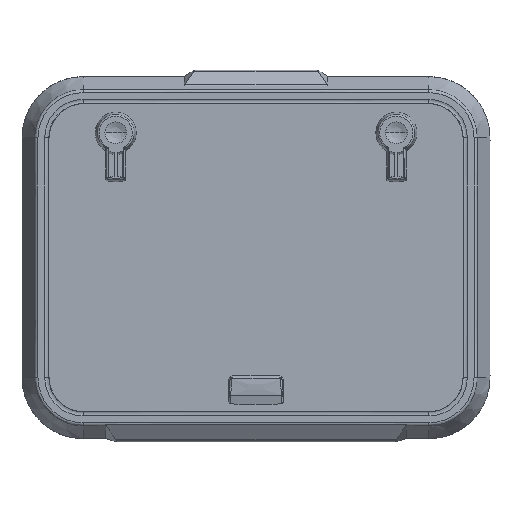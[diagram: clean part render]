
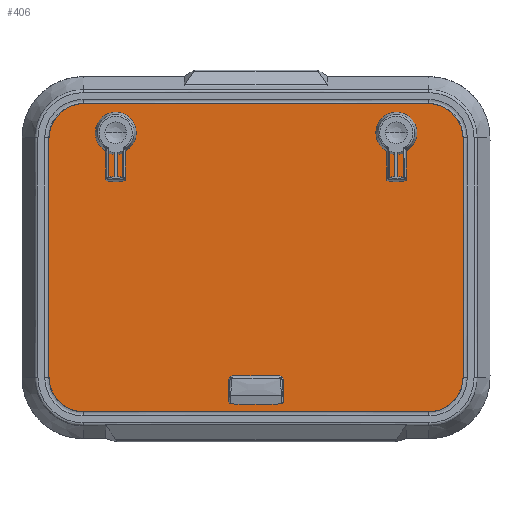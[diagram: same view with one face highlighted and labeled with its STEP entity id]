
A CAD part, front view. The second image highlights one B-rep face of the part: STEP entity #406.
In plain terms, the highlighted planar face has unit normal (0, -1, 0).
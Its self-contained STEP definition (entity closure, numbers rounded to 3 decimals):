
#1=CARTESIAN_POINT('',(81.9,0.,-35.7));
#2=DIRECTION('',(0.,-1.,0.));
#3=DIRECTION('',(1.,0.,0.));
#4=AXIS2_PLACEMENT_3D('',#1,#2,#3);
#6=CARTESIAN_POINT('',(81.9,0.,-35.7));
#7=DIRECTION('',(0.,-1.,0.));
#8=DIRECTION('',(-1.,0.,0.));
#9=AXIS2_PLACEMENT_3D('',#6,#7,#8);
#11=CARTESIAN_POINT('',(97.055,0.,-44.45));
#12=DIRECTION('',(0.,-1.,0.));
#13=DIRECTION('',(1.,0.,0.));
#14=AXIS2_PLACEMENT_3D('',#11,#12,#13);
#16=CARTESIAN_POINT('',(97.055,0.,-44.45));
#17=DIRECTION('',(0.,-1.,0.));
#18=DIRECTION('',(-1.,0.,0.));
#19=AXIS2_PLACEMENT_3D('',#16,#17,#18);
#21=CARTESIAN_POINT('',(426.1,0.,-35.7));
#22=DIRECTION('',(0.,-1.,0.));
#23=DIRECTION('',(1.,0.,0.));
#24=AXIS2_PLACEMENT_3D('',#21,#22,#23);
#26=CARTESIAN_POINT('',(426.1,0.,-35.7));
#27=DIRECTION('',(0.,-1.,0.));
#28=DIRECTION('',(-1.,0.,0.));
#29=AXIS2_PLACEMENT_3D('',#26,#27,#28);
#31=CARTESIAN_POINT('',(410.945,0.,-44.45));
#32=DIRECTION('',(0.,-1.,0.));
#33=DIRECTION('',(1.,0.,0.));
#34=AXIS2_PLACEMENT_3D('',#31,#32,#33);
#36=CARTESIAN_POINT('',(410.945,0.,-44.45));
#37=DIRECTION('',(0.,-1.,0.));
#38=DIRECTION('',(-1.,0.,0.));
#39=AXIS2_PLACEMENT_3D('',#36,#37,#38);
#41=DIRECTION('',(1.,0.,0.));
#42=VECTOR('',#41,422.);
#43=CARTESIAN_POINT('',(43.,0.,0.));
#44=LINE('',#43,#42);
#45=CARTESIAN_POINT('',(465.,0.,-43.));
#46=DIRECTION('',(0.,1.,0.));
#47=DIRECTION('',(0.,0.,1.));
#48=AXIS2_PLACEMENT_3D('',#45,#46,#47);
#50=DIRECTION('',(0.,0.,-1.));
#51=VECTOR('',#50,292.);
#52=CARTESIAN_POINT('',(508.,0.,-43.));
#53=LINE('',#52,#51);
#54=CARTESIAN_POINT('',(465.,0.,-335.));
#55=DIRECTION('',(0.,1.,0.));
#56=DIRECTION('',(1.,0.,0.));
#57=AXIS2_PLACEMENT_3D('',#54,#55,#56);
#59=DIRECTION('',(-1.,0.,0.));
#60=VECTOR('',#59,422.);
#61=CARTESIAN_POINT('',(465.,0.,-378.));
#62=LINE('',#61,#60);
#63=CARTESIAN_POINT('',(43.,0.,-335.));
#64=DIRECTION('',(0.,1.,0.));
#65=DIRECTION('',(0.,0.,-1.));
#66=AXIS2_PLACEMENT_3D('',#63,#64,#65);
#68=DIRECTION('',(0.,0.,1.));
#69=VECTOR('',#68,292.);
#70=CARTESIAN_POINT('',(0.,0.,-335.));
#71=LINE('',#70,#69);
#72=CARTESIAN_POINT('',(43.,0.,-43.));
#73=DIRECTION('',(0.,1.,0.));
#74=DIRECTION('',(-1.,0.,0.));
#75=AXIS2_PLACEMENT_3D('',#72,#73,#74);
#77=CARTESIAN_POINT('',(275.5,0.,-347.));
#78=DIRECTION('',(0.,-1.,0.));
#79=DIRECTION('',(0.,0.,-1.));
#80=AXIS2_PLACEMENT_3D('',#77,#78,#79);
#82=DIRECTION('',(-1.,0.,0.));
#83=VECTOR('',#82,43.);
#84=CARTESIAN_POINT('',(275.5,0.,-341.5));
#85=LINE('',#84,#83);
#86=CARTESIAN_POINT('',(232.5,0.,-347.));
#87=DIRECTION('',(0.,-1.,0.));
#88=DIRECTION('',(0.,0.,1.));
#89=AXIS2_PLACEMENT_3D('',#86,#87,#88);
#91=DIRECTION('',(1.,0.,0.));
#92=VECTOR('',#91,43.);
#93=CARTESIAN_POINT('',(232.5,0.,-352.5));
#94=LINE('',#93,#92);
#269=CARTESIAN_POINT('',(43.,0.,0.));
#270=CARTESIAN_POINT('',(465.,0.,0.));
#271=VERTEX_POINT('',#269);
#272=VERTEX_POINT('',#270);
#273=CARTESIAN_POINT('',(508.,0.,-43.));
#274=VERTEX_POINT('',#273);
#275=CARTESIAN_POINT('',(508.,0.,-335.));
#276=VERTEX_POINT('',#275);
#277=CARTESIAN_POINT('',(465.,0.,-378.));
#278=VERTEX_POINT('',#277);
#279=CARTESIAN_POINT('',(43.,0.,-378.));
#280=VERTEX_POINT('',#279);
#281=CARTESIAN_POINT('',(0.,0.,-335.));
#282=VERTEX_POINT('',#281);
#283=CARTESIAN_POINT('',(0.,0.,-43.));
#284=VERTEX_POINT('',#283);
#285=CARTESIAN_POINT('',(275.5,0.,-352.5));
#286=CARTESIAN_POINT('',(275.5,0.,-341.5));
#287=VERTEX_POINT('',#285);
#288=VERTEX_POINT('',#286);
#289=CARTESIAN_POINT('',(232.5,0.,-341.5));
#290=VERTEX_POINT('',#289);
#291=CARTESIAN_POINT('',(232.5,0.,-352.5));
#292=VERTEX_POINT('',#291);
#317=CARTESIAN_POINT('',(89.4,0.,-35.7));
#318=CARTESIAN_POINT('',(74.4,0.,-35.7));
#319=VERTEX_POINT('',#317);
#320=VERTEX_POINT('',#318);
#321=CARTESIAN_POINT('',(100.393,0.,-44.45));
#322=CARTESIAN_POINT('',(93.718,0.,-44.45));
#323=VERTEX_POINT('',#321);
#324=VERTEX_POINT('',#322);
#333=CARTESIAN_POINT('',(433.6,0.,-35.7));
#334=CARTESIAN_POINT('',(418.6,0.,-35.7));
#335=VERTEX_POINT('',#333);
#336=VERTEX_POINT('',#334);
#337=CARTESIAN_POINT('',(414.282,0.,-44.45));
#338=CARTESIAN_POINT('',(407.607,0.,-44.45));
#339=VERTEX_POINT('',#337);
#340=VERTEX_POINT('',#338);
#349=CARTESIAN_POINT('',(0.,0.,0.));
#350=DIRECTION('',(0.,1.,0.));
#351=DIRECTION('',(1.,0.,0.));
#352=AXIS2_PLACEMENT_3D('',#349,#350,#351);
#353=PLANE('',#352);
#355=ORIENTED_EDGE('',*,*,#354,.T.);
#357=ORIENTED_EDGE('',*,*,#356,.T.);
#359=ORIENTED_EDGE('',*,*,#358,.T.);
#361=ORIENTED_EDGE('',*,*,#360,.T.);
#363=ORIENTED_EDGE('',*,*,#362,.T.);
#365=ORIENTED_EDGE('',*,*,#364,.T.);
#367=ORIENTED_EDGE('',*,*,#366,.T.);
#369=ORIENTED_EDGE('',*,*,#368,.T.);
#370=EDGE_LOOP('',(#355,#357,#359,#361,#363,#365,#367,#369));
#371=FACE_OUTER_BOUND('',#370,.F.);
#373=ORIENTED_EDGE('',*,*,#372,.T.);
#375=ORIENTED_EDGE('',*,*,#374,.T.);
#376=EDGE_LOOP('',(#373,#375));
#377=FACE_BOUND('',#376,.F.);
#379=ORIENTED_EDGE('',*,*,#378,.T.);
#381=ORIENTED_EDGE('',*,*,#380,.T.);
#382=EDGE_LOOP('',(#379,#381));
#383=FACE_BOUND('',#382,.F.);
#385=ORIENTED_EDGE('',*,*,#384,.T.);
#387=ORIENTED_EDGE('',*,*,#386,.T.);
#388=EDGE_LOOP('',(#385,#387));
#389=FACE_BOUND('',#388,.F.);
#391=ORIENTED_EDGE('',*,*,#390,.T.);
#393=ORIENTED_EDGE('',*,*,#392,.T.);
#394=EDGE_LOOP('',(#391,#393));
#395=FACE_BOUND('',#394,.F.);
#397=ORIENTED_EDGE('',*,*,#396,.T.);
#399=ORIENTED_EDGE('',*,*,#398,.T.);
#401=ORIENTED_EDGE('',*,*,#400,.T.);
#403=ORIENTED_EDGE('',*,*,#402,.T.);
#404=EDGE_LOOP('',(#397,#399,#401,#403));
#405=FACE_BOUND('',#404,.F.);
#406=ADVANCED_FACE('',(#371,#377,#383,#389,#395,#405),#353,.F.);
#5=CIRCLE('',#4,7.5);
#10=CIRCLE('',#9,7.5);
#15=CIRCLE('',#14,3.338);
#20=CIRCLE('',#19,3.338);
#25=CIRCLE('',#24,7.5);
#30=CIRCLE('',#29,7.5);
#35=CIRCLE('',#34,3.338);
#40=CIRCLE('',#39,3.338);
#49=CIRCLE('',#48,43.);
#58=CIRCLE('',#57,43.);
#67=CIRCLE('',#66,43.);
#76=CIRCLE('',#75,43.);
#81=CIRCLE('',#80,5.5);
#90=CIRCLE('',#89,5.5);
#354=EDGE_CURVE('',#271,#272,#44,.T.);
#356=EDGE_CURVE('',#272,#274,#49,.T.);
#358=EDGE_CURVE('',#274,#276,#53,.T.);
#360=EDGE_CURVE('',#276,#278,#58,.T.);
#362=EDGE_CURVE('',#278,#280,#62,.T.);
#364=EDGE_CURVE('',#280,#282,#67,.T.);
#366=EDGE_CURVE('',#282,#284,#71,.T.);
#368=EDGE_CURVE('',#284,#271,#76,.T.);
#372=EDGE_CURVE('',#319,#320,#5,.T.);
#374=EDGE_CURVE('',#320,#319,#10,.T.);
#378=EDGE_CURVE('',#323,#324,#15,.T.);
#380=EDGE_CURVE('',#324,#323,#20,.T.);
#384=EDGE_CURVE('',#335,#336,#25,.T.);
#386=EDGE_CURVE('',#336,#335,#30,.T.);
#390=EDGE_CURVE('',#339,#340,#35,.T.);
#392=EDGE_CURVE('',#340,#339,#40,.T.);
#396=EDGE_CURVE('',#287,#288,#81,.T.);
#398=EDGE_CURVE('',#288,#290,#85,.T.);
#400=EDGE_CURVE('',#290,#292,#90,.T.);
#402=EDGE_CURVE('',#292,#287,#94,.T.);
